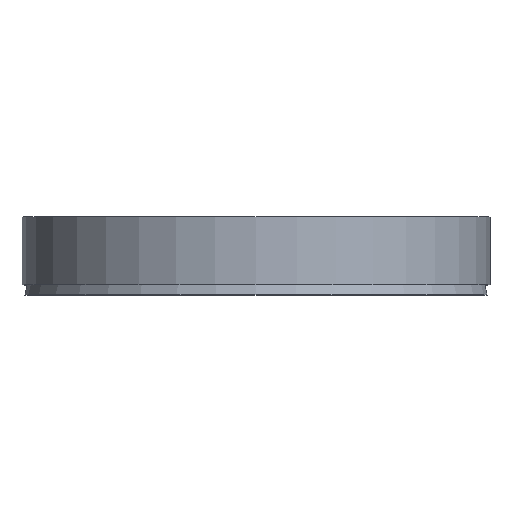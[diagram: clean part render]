
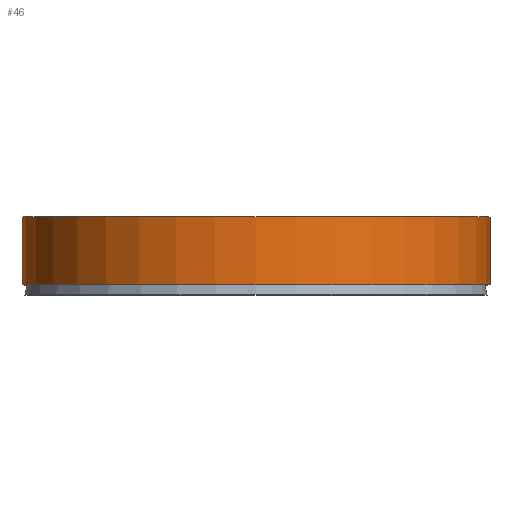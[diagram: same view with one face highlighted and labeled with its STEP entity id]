
A CAD part, top view. The second image highlights one B-rep face of the part: STEP entity #46.
In plain terms, the highlighted cylindrical face has radius 42 mm (diameter 84 mm), a full revolution.
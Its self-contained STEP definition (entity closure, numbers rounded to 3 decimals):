
#46 = ADVANCED_FACE( '', ( #93, #94 ), #95, .T. );
#93 = FACE_OUTER_BOUND( '', #132, .T. );
#94 = FACE_OUTER_BOUND( '', #133, .T. );
#95 = CYLINDRICAL_SURFACE( '', #134, 42. );
#132 = EDGE_LOOP( '', ( #179 ) );
#133 = EDGE_LOOP( '', ( #180 ) );
#134 = AXIS2_PLACEMENT_3D( '', #181, #182, #183 );
#179 = ORIENTED_EDGE( '', *, *, #189, .F. );
#180 = ORIENTED_EDGE( '', *, *, #198, .T. );
#181 = CARTESIAN_POINT( '', ( 0., -60., 0. ) );
#182 = DIRECTION( '', ( 0., 1., 0. ) );
#183 = DIRECTION( '', ( 0., 0., -1. ) );
#189 = EDGE_CURVE( '', #208, #208, #209, .T. );
#198 = EDGE_CURVE( '', #221, #221, #222, .T. );
#208 = VERTEX_POINT( '', #232 );
#209 = CIRCLE( '', #233, 42. );
#221 = VERTEX_POINT( '', #245 );
#222 = CIRCLE( '', #246, 42. );
#232 = CARTESIAN_POINT( '', ( 0., 1.8, -42. ) );
#233 = AXIS2_PLACEMENT_3D( '', #257, #258, #259 );
#245 = CARTESIAN_POINT( '', ( 0., 14., -42. ) );
#246 = AXIS2_PLACEMENT_3D( '', #269, #270, #271 );
#257 = CARTESIAN_POINT( '', ( 0., 1.8, 0. ) );
#258 = DIRECTION( '', ( 0., -1., 0. ) );
#259 = DIRECTION( '', ( 0., 0., -1. ) );
#269 = CARTESIAN_POINT( '', ( 0., 14., 0. ) );
#270 = DIRECTION( '', ( 0., -1., 0. ) );
#271 = DIRECTION( '', ( 0., 0., -1. ) );
